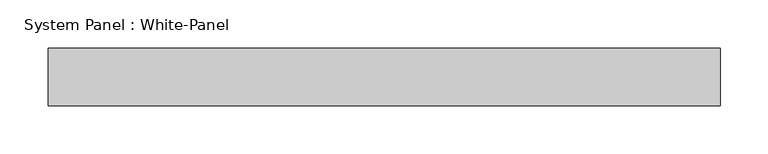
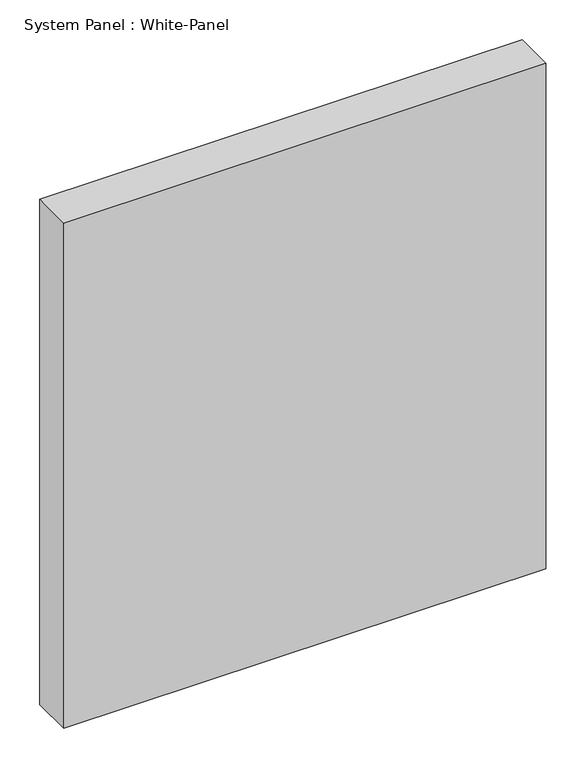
"""IFC4 building model written with IfcOpenShell, lengths in millimetres: plate geometry, System Panel : White-Panel."""

import ifcopenshell
import ifcopenshell.guid

model = None  # the IFC model being written
_history = None  # IfcOwnerHistory: only IFC2X3 demands one
_inside = {}  # id of a spatial element -> (the spatial element, [elements in it])
_under = {}  # id of a project, library or spatial element -> (it, [spatial elements below it])
_declared = {}  # id of a project -> (the project, [libraries it declares])
_typed = {}  # id of a type object -> (the type object, [elements of that type])
_made_of = {}  # id of a material, layer set ... -> (it, [elements and type objects made of it])


def new_model(schema):
    """Start an empty IFC model of exactly this schema.

    Asked for "IFC4X3", IfcOpenShell would pick the latest addendum, in which some entities
    have other attributes; the version numbers below select the first issue.
    IFC2X3 requires an IfcOwnerHistory on every rooted entity: one is made here for all.
    """
    global model, _history
    if schema == "IFC4X3":
        model = ifcopenshell.file(schema_version=(4, 3, 0, 0))
    else:
        model = ifcopenshell.file(schema=schema)
    _inside.clear()
    _under.clear()
    _declared.clear()
    _typed.clear()
    _made_of.clear()
    _history = None
    if model.schema == "IFC2X3":
        org = make("IfcOrganization", Name="unknown")
        user = make(
            "IfcPersonAndOrganization",
            ThePerson=make("IfcPerson", FamilyName="unknown"),
            TheOrganization=org,
        )
        app = make(
            "IfcApplication",
            ApplicationDeveloper=org,
            Version="unknown",
            ApplicationFullName="unknown",
            ApplicationIdentifier="unknown",
        )
        _history = make(
            "IfcOwnerHistory",
            OwningUser=user,
            OwningApplication=app,
            ChangeAction="ADDED",
            CreationDate=0,
        )
    return model


def make(cls, **values):
    """One entity of the class cls with the attributes given. An attribute that is None is left unset."""
    return model.create_entity(
        cls, **{name: value for name, value in values.items() if value is not None}
    )


def rooted(cls, **values):
    """An entity with a GlobalId (a new one), such as an element, a storey or a relation."""
    return make(cls, GlobalId=ifcopenshell.guid.new(), OwnerHistory=_history, **values)


def si_unit(unit_type, name, prefix=None):
    """IfcSIUnit, for example si_unit("LENGTHUNIT", "METRE", prefix="MILLI")."""
    return make("IfcSIUnit", UnitType=unit_type, Prefix=prefix, Name=name)


def assignment(units):
    """IfcUnitAssignment: the units of a project."""
    return None if units is None else make("IfcUnitAssignment", Units=units)


def point(xyz):
    """IfcCartesianPoint."""
    return None if xyz is None else make("IfcCartesianPoint", Coordinates=xyz)


def direction(xyz):
    """IfcDirection."""
    return None if xyz is None else make("IfcDirection", DirectionRatios=xyz)


def frame(location, z_axis=None, x_axis=None):
    """IfcAxis2Placement3D, a coordinate frame: its origin and axes. An axis left out is left unset."""
    return make(
        "IfcAxis2Placement3D",
        Location=point(location),
        Axis=direction(z_axis),
        RefDirection=direction(x_axis),
    )


def origin():
    """The frame at (0, 0, 0) with its axes left unset."""
    return frame((0.0, 0.0, 0.0))


def origin_with_axes():
    """The frame at (0, 0, 0) with the z axis (0, 0, 1) and the x axis (1, 0, 0) written out."""
    return frame((0.0, 0.0, 0.0), z_axis=(0.0, 0.0, 1.0), x_axis=(1.0, 0.0, 0.0))


def place(relative_to, where):
    """IfcLocalPlacement: puts the frame where relative to a parent placement (None: the world)."""
    return make(
        "IfcLocalPlacement", PlacementRelTo=relative_to, RelativePlacement=where
    )


def context(
    kind, dimensions, precision=None, world=None, true_north=None, identifier=None
):
    """IfcGeometricRepresentationContext, for example the 3D "Model" context."""
    return make(
        "IfcGeometricRepresentationContext",
        ContextIdentifier=identifier,
        ContextType=kind,
        CoordinateSpaceDimension=dimensions,
        Precision=precision,
        WorldCoordinateSystem=world,
        TrueNorth=true_north,
    )


def project(units=None, contexts=None):
    """IfcProject with its units and contexts."""
    return rooted(
        "IfcProject",
        Name="project",
        RepresentationContexts=contexts,
        UnitsInContext=assignment(units),
    )


def spatial(cls, under=None, at=None, **own):
    """A site, building, storey or space (cls), placed at a placement, below another one or the project."""
    s = rooted(cls, ObjectPlacement=at, **own)
    if under is not None:
        _under.setdefault(under.id(), (under, []))[1].append(s)
    return s


def polyline(points):
    """IfcPolyline through the points."""
    return make("IfcPolyline", Points=[point(p) for p in points])


def outline(outer, holes=None, kind="AREA"):
    """IfcArbitraryClosedProfileDef: a profile drawn as a closed curve; with holes, ...WithVoids."""
    if holes is None:
        return make("IfcArbitraryClosedProfileDef", ProfileType=kind, OuterCurve=outer)
    return make(
        "IfcArbitraryProfileDefWithVoids",
        ProfileType=kind,
        OuterCurve=outer,
        InnerCurves=holes,
    )


def extrude(swept, where, along, depth):
    """IfcExtrudedAreaSolid: the profile swept, set in the frame where, extruded along a direction by depth."""
    return make(
        "IfcExtrudedAreaSolid",
        SweptArea=swept,
        Position=where,
        ExtrudedDirection=direction(along),
        Depth=depth,
    )


def shape(context_of_items, identifier, shape_type, items):
    """IfcShapeRepresentation: the items that make up one representation, for example the "Body"."""
    return make(
        "IfcShapeRepresentation",
        ContextOfItems=context_of_items,
        RepresentationIdentifier=identifier,
        RepresentationType=shape_type,
        Items=items,
    )


def source(mapping_origin, context_of_items, identifier, shape_type, items):
    """IfcRepresentationMap: a shape defined once, which mapped items show again and again."""
    return make(
        "IfcRepresentationMap",
        MappingOrigin=mapping_origin,
        MappedRepresentation=shape(context_of_items, identifier, shape_type, items),
    )


def transform(
    local_origin,
    x_axis=None,
    y_axis=None,
    z_axis=None,
    scale=None,
    scale2=None,
    scale3=None,
    uniform=True,
):
    """IfcCartesianTransformationOperator3D, or its non-uniform kind. x_axis, y_axis, z_axis: its Axis1, 2, 3."""
    if uniform:
        return make(
            "IfcCartesianTransformationOperator3D",
            Axis1=direction(x_axis),
            Axis2=direction(y_axis),
            LocalOrigin=point(local_origin),
            Scale=scale,
            Axis3=direction(z_axis),
        )
    return make(
        "IfcCartesianTransformationOperator3DnonUniform",
        Axis1=direction(x_axis),
        Axis2=direction(y_axis),
        LocalOrigin=point(local_origin),
        Scale=scale,
        Axis3=direction(z_axis),
        Scale2=scale2,
        Scale3=scale3,
    )


def mapped(mapping_source, mapping_target):
    """IfcMappedItem: shows the shape of a source again, moved by a transform."""
    return make(
        "IfcMappedItem", MappingSource=mapping_source, MappingTarget=mapping_target
    )


def made_of(thing, what):
    """Note that an element or type object is made of a material, layer set ...; save() writes the relation."""
    if what is not None:
        _made_of.setdefault(what.id(), (what, []))[1].append(thing)
    return thing


def element(
    cls,
    number,
    at=None,
    inside=None,
    cuts=None,
    type_object=None,
    material=None,
    context=None,
    identifier="Body",
    shape_type=None,
    held_by="IfcProductDefinitionShape",
    body=None,
    shapes=None,
    **own,
):
    """One element of the class cls, such as IfcWall. Its Tag is "e" and its number.

    at: its placement. inside: the storey or other place that contains it. cuts: it is an
    opening in that element (IfcRelVoidsElement). A single representation is given by context,
    identifier, shape_type and body (its items); several are given by shapes. held_by: the class
    of the entity that holds the representations. save() writes the other relations.
    """
    e = rooted(cls, Tag="e%d" % number, ObjectPlacement=at, **own)
    if body is not None:
        shapes = [shape(context, identifier, shape_type, body)]
    if shapes is not None:
        e.Representation = make(held_by, Representations=shapes)
    if inside is not None:
        _inside.setdefault(inside.id(), (inside, []))[1].append(e)
    if cuts is not None:
        rooted(
            "IfcRelVoidsElement", RelatingBuildingElement=cuts, RelatedOpeningElement=e
        )
    if type_object is not None:
        _typed.setdefault(type_object.id(), (type_object, []))[1].append(e)
    return made_of(e, material)


def aggregate(whole, parts):
    """IfcRelAggregates: a whole, such as a stair, and the parts it consists of."""
    return rooted("IfcRelAggregates", RelatingObject=whole, RelatedObjects=parts)


def save(model, path):
    """Write the relations noted so far, then the file.

    IfcRelAggregates (storeys below a building ...), IfcRelContainedInSpatialStructure (elements
    in a storey), IfcRelDefinesByType, IfcRelAssociatesMaterial and IfcRelDeclares: one each for
    every whole, place, type object, material and project.
    """
    for whole, parts in _under.values():
        aggregate(whole, parts)
    for where, things in _inside.values():
        rooted(
            "IfcRelContainedInSpatialStructure",
            RelatedElements=things,
            RelatingStructure=where,
        )
    for kind, things in _typed.values():
        rooted("IfcRelDefinesByType", RelatedObjects=things, RelatingType=kind)
    for what, things in _made_of.values():
        rooted("IfcRelAssociatesMaterial", RelatedObjects=things, RelatingMaterial=what)
    for by, libraries in _declared.values():
        rooted("IfcRelDeclares", RelatingContext=by, RelatedDefinitions=libraries)
    model.write(path)


def system_panel_white_panel_dc489aa2(model_context):
    return source(origin(), model_context, "Body", "SweptSolid", [
        extrude(outline(polyline([(350.0, -10.5), (-350.0, -10.5), (-350.0, 49.5), (350.0, 49.5), (350.0, -10.5)])), origin_with_axes(), (0.0, 0.0, 1.0), 775.0),
    ])


if __name__ == "__main__":
    model = new_model("IFC4")
    model_context = context("Model", 3, world=origin())
    ifc_project = project(units=[si_unit("LENGTHUNIT", "METRE", prefix="MILLI")], contexts=[model_context])
    site = spatial("IfcSite", under=ifc_project)
    building = spatial("IfcBuilding", under=site)
    placement = place(None, origin())
    system_panel_white_panel_shape = system_panel_white_panel_dc489aa2(model_context)
    element("IfcPlate", 1, ObjectType="System Panel : White-Panel", at=placement, inside=building, context=model_context, shape_type="MappedRepresentation", body=[
        mapped(system_panel_white_panel_shape, transform((0.0, 0.0, 0.0), x_axis=(1.0, 0.0, 0.0), y_axis=(0.0, 1.0, 0.0), z_axis=(0.0, 0.0, 1.0))),
    ])
    save(model, "model.ifc")
